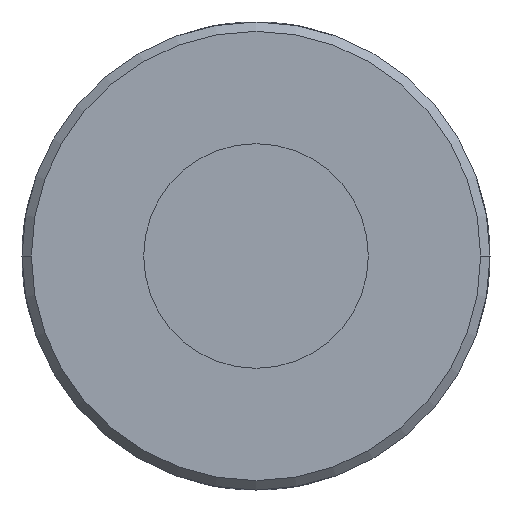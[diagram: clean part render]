
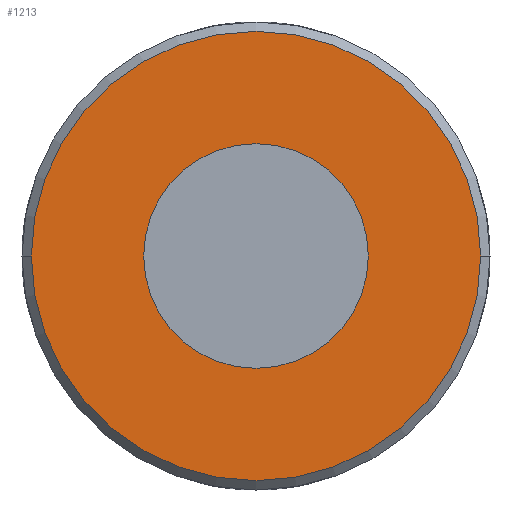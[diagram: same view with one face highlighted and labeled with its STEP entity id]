
A CAD part, left-side view. The second image highlights one B-rep face of the part: STEP entity #1213.
In plain terms, the highlighted planar face has unit normal (-1, 0, 0).
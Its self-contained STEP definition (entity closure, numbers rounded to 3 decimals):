
#660=CARTESIAN_POINT('',(0.,0.,0.));
#661=DIRECTION('',(1.,0.,0.));
#662=DIRECTION('',(0.,1.,0.));
#663=AXIS2_PLACEMENT_3D('',#660,#661,#662);
#668=CARTESIAN_POINT('',(0.,0.,0.));
#669=DIRECTION('',(-1.,0.,0.));
#670=DIRECTION('',(0.,1.,0.));
#671=AXIS2_PLACEMENT_3D('',#668,#669,#670);
#690=CARTESIAN_POINT('',(0.,0.,0.));
#691=DIRECTION('',(-1.,0.,0.));
#692=DIRECTION('',(0.,1.,0.));
#693=AXIS2_PLACEMENT_3D('',#690,#691,#692);
#698=CARTESIAN_POINT('',(0.,0.,0.));
#699=DIRECTION('',(1.,0.,0.));
#700=DIRECTION('',(0.,1.,0.));
#701=AXIS2_PLACEMENT_3D('',#698,#699,#700);
#784=CARTESIAN_POINT('',(0.,12.,0.));
#785=VERTEX_POINT('',#784);
#786=CARTESIAN_POINT('',(0.,6.,0.));
#788=VERTEX_POINT('',#786);
#806=CARTESIAN_POINT('',(0.,-12.,0.));
#807=VERTEX_POINT('',#806);
#808=CARTESIAN_POINT('',(0.,-6.,0.));
#810=VERTEX_POINT('',#808);
#1198=CARTESIAN_POINT('',(0.,0.,0.));
#1199=DIRECTION('',(1.,0.,0.));
#1200=DIRECTION('',(0.,-1.,0.));
#1201=AXIS2_PLACEMENT_3D('',#1198,#1199,#1200);
#1202=PLANE('',#1201);
#1203=ORIENTED_EDGE('',*,*,#1180,.T.);
#1204=ORIENTED_EDGE('',*,*,#1191,.F.);
#1205=EDGE_LOOP('',(#1203,#1204));
#1206=FACE_OUTER_BOUND('',#1205,.F.);
#1208=ORIENTED_EDGE('',*,*,#1207,.T.);
#1210=ORIENTED_EDGE('',*,*,#1209,.F.);
#1211=EDGE_LOOP('',(#1208,#1210));
#1212=FACE_BOUND('',#1211,.F.);
#664=CIRCLE('',#663,12.);
#672=CIRCLE('',#671,12.);
#694=CIRCLE('',#693,6.);
#702=CIRCLE('',#701,6.);
#1180=EDGE_CURVE('',#785,#807,#664,.T.);
#1191=EDGE_CURVE('',#785,#807,#672,.T.);
#1207=EDGE_CURVE('',#788,#810,#694,.T.);
#1209=EDGE_CURVE('',#788,#810,#702,.T.);
#1213=ADVANCED_FACE('',(#1206,#1212),#1202,.F.);
